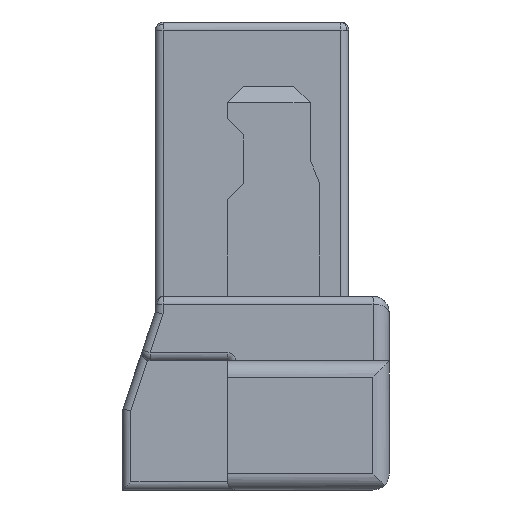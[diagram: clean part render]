
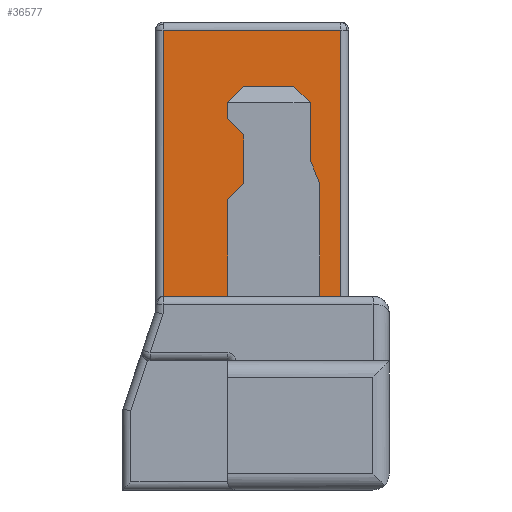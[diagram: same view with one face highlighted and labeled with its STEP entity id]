
A CAD part, left-side view. The second image highlights one B-rep face of the part: STEP entity #36577.
In plain terms, the highlighted planar face has unit normal (-1, 0, 0).
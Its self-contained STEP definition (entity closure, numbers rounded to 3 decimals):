
#9952=DIRECTION('',(0.,-1.,0.));
#9953=VECTOR('',#9952,1.1);
#9954=CARTESIAN_POINT('',(-16.09,1.4,2.85));
#9955=LINE('',#9954,#9953);
#9960=DIRECTION('',(0.,0.,-1.));
#9961=VECTOR('',#9960,0.354);
#9962=CARTESIAN_POINT('',(-16.09,0.49,2.4));
#9963=LINE('',#9962,#9961);
#9964=DIRECTION('',(0.,-0.707,-0.707));
#9965=VECTOR('',#9964,0.141);
#9966=CARTESIAN_POINT('',(-16.09,0.59,2.5));
#9967=LINE('',#9966,#9965);
#9968=DIRECTION('',(0.,-0.707,0.707));
#9969=VECTOR('',#9968,0.141);
#9970=CARTESIAN_POINT('',(-16.09,1.,2.4));
#9971=LINE('',#9970,#9969);
#9972=DIRECTION('',(0.,0.707,0.707));
#9973=VECTOR('',#9972,0.141);
#9974=CARTESIAN_POINT('',(-16.09,0.9,2.2));
#9975=LINE('',#9974,#9973);
#9976=DIRECTION('',(0.,-0.707,0.707));
#9977=VECTOR('',#9976,0.141);
#9978=CARTESIAN_POINT('',(-16.09,1.,1.8));
#9979=LINE('',#9978,#9977);
#9980=DIRECTION('',(0.,-1.,0.));
#9981=VECTOR('',#9980,0.4);
#9982=CARTESIAN_POINT('',(-16.09,1.4,1.2));
#9983=LINE('',#9982,#9981);
#9984=DIRECTION('',(0.,-1.,0.));
#9985=VECTOR('',#9984,0.13);
#9986=CARTESIAN_POINT('',(-16.09,0.43,1.2));
#9987=LINE('',#9986,#9985);
#9988=DIRECTION('',(0.,-0.38,-0.925));
#9989=VECTOR('',#9988,0.158);
#9990=CARTESIAN_POINT('',(-16.09,0.49,2.046));
#9991=LINE('',#9990,#9989);
#10008=DIRECTION('',(0.,0.,1.));
#10009=VECTOR('',#10008,0.7);
#10010=CARTESIAN_POINT('',(-16.09,0.43,1.2));
#10011=LINE('',#10010,#10009);
#10048=DIRECTION('',(0.,0.,-1.));
#10049=VECTOR('',#10048,0.6);
#10050=CARTESIAN_POINT('',(-16.09,1.,1.8));
#10051=LINE('',#10050,#10049);
#10064=DIRECTION('',(0.,0.,-1.));
#10065=VECTOR('',#10064,0.3);
#10066=CARTESIAN_POINT('',(-16.09,0.9,2.2));
#10067=LINE('',#10066,#10065);
#10080=DIRECTION('',(0.,0.,-1.));
#10081=VECTOR('',#10080,0.1);
#10082=CARTESIAN_POINT('',(-16.09,1.,2.4));
#10083=LINE('',#10082,#10081);
#10096=DIRECTION('',(0.,1.,0.));
#10097=VECTOR('',#10096,0.31);
#10098=CARTESIAN_POINT('',(-16.09,0.59,2.5));
#10099=LINE('',#10098,#10097);
#10116=DIRECTION('',(0.,0.,1.));
#10117=VECTOR('',#10116,1.65);
#10118=CARTESIAN_POINT('',(-16.09,1.4,1.2));
#10119=LINE('',#10118,#10117);
#10185=DIRECTION('',(0.,0.,-1.));
#10186=VECTOR('',#10185,1.65);
#10187=CARTESIAN_POINT('',(-16.09,0.3,2.85));
#10188=LINE('',#10187,#10186);
#18924=CARTESIAN_POINT('',(-16.09,1.4,2.85));
#18926=VERTEX_POINT('',#18924);
#18930=CARTESIAN_POINT('',(-16.09,0.3,2.85));
#18931=VERTEX_POINT('',#18930);
#19959=CARTESIAN_POINT('',(-16.09,1.,1.8));
#19961=VERTEX_POINT('',#19959);
#19963=CARTESIAN_POINT('',(-16.09,0.9,1.9));
#19964=VERTEX_POINT('',#19963);
#19967=CARTESIAN_POINT('',(-16.09,1.,1.2));
#19969=VERTEX_POINT('',#19967);
#19981=CARTESIAN_POINT('',(-16.09,0.59,2.5));
#19982=VERTEX_POINT('',#19981);
#19983=CARTESIAN_POINT('',(-16.09,0.49,2.4));
#19984=VERTEX_POINT('',#19983);
#19989=CARTESIAN_POINT('',(-16.09,1.,2.3));
#19990=VERTEX_POINT('',#19989);
#19991=CARTESIAN_POINT('',(-16.09,1.,2.4));
#19992=VERTEX_POINT('',#19991);
#20152=CARTESIAN_POINT('',(-16.09,0.43,1.2));
#20153=CARTESIAN_POINT('',(-16.09,0.43,1.9));
#20154=VERTEX_POINT('',#20152);
#20155=VERTEX_POINT('',#20153);
#20186=CARTESIAN_POINT('',(-16.09,0.49,2.046));
#20187=VERTEX_POINT('',#20186);
#20200=CARTESIAN_POINT('',(-16.09,0.9,2.5));
#20201=VERTEX_POINT('',#20200);
#20208=CARTESIAN_POINT('',(-16.09,0.3,1.2));
#20209=VERTEX_POINT('',#20208);
#20276=CARTESIAN_POINT('',(-16.09,0.9,2.2));
#20277=VERTEX_POINT('',#20276);
#20278=CARTESIAN_POINT('',(-16.09,1.4,1.2));
#20279=VERTEX_POINT('',#20278);
#36541=CARTESIAN_POINT('',(-16.09,0.715,1.8));
#36542=DIRECTION('',(1.,0.,0.));
#36543=DIRECTION('',(0.,1.,0.));
#36544=AXIS2_PLACEMENT_3D('',#36541,#36542,#36543);
#36545=PLANE('',#36544);
#36547=ORIENTED_EDGE('',*,*,#36546,.F.);
#36549=ORIENTED_EDGE('',*,*,#36548,.F.);
#36551=ORIENTED_EDGE('',*,*,#36550,.T.);
#36553=ORIENTED_EDGE('',*,*,#36552,.F.);
#36555=ORIENTED_EDGE('',*,*,#36554,.T.);
#36557=ORIENTED_EDGE('',*,*,#36556,.F.);
#36559=ORIENTED_EDGE('',*,*,#36558,.T.);
#36561=ORIENTED_EDGE('',*,*,#36560,.F.);
#36563=ORIENTED_EDGE('',*,*,#36562,.T.);
#36564=ORIENTED_EDGE('',*,*,#24938,.F.);
#36566=ORIENTED_EDGE('',*,*,#36565,.T.);
#36567=ORIENTED_EDGE('',*,*,#36530,.T.);
#36569=ORIENTED_EDGE('',*,*,#36568,.T.);
#36570=ORIENTED_EDGE('',*,*,#24946,.F.);
#36572=ORIENTED_EDGE('',*,*,#36571,.T.);
#36574=ORIENTED_EDGE('',*,*,#36573,.F.);
#36575=EDGE_LOOP('',(#36547,#36549,#36551,#36553,#36555,#36557,#36559,#36561,
#36563,#36564,#36566,#36567,#36569,#36570,#36572,#36574));
#36576=FACE_OUTER_BOUND('',#36575,.F.);
#36577=ADVANCED_FACE('',(#36576),#36545,.F.);
#24938=EDGE_CURVE('',#20279,#19969,#9983,.T.);
#24946=EDGE_CURVE('',#20154,#20209,#9987,.T.);
#36530=EDGE_CURVE('',#18926,#18931,#9955,.T.);
#36546=EDGE_CURVE('',#19984,#20187,#9963,.T.);
#36548=EDGE_CURVE('',#19982,#19984,#9967,.T.);
#36550=EDGE_CURVE('',#19982,#20201,#10099,.T.);
#36552=EDGE_CURVE('',#19992,#20201,#9971,.T.);
#36554=EDGE_CURVE('',#19992,#19990,#10083,.T.);
#36556=EDGE_CURVE('',#20277,#19990,#9975,.T.);
#36558=EDGE_CURVE('',#20277,#19964,#10067,.T.);
#36560=EDGE_CURVE('',#19961,#19964,#9979,.T.);
#36562=EDGE_CURVE('',#19961,#19969,#10051,.T.);
#36565=EDGE_CURVE('',#20279,#18926,#10119,.T.);
#36568=EDGE_CURVE('',#18931,#20209,#10188,.T.);
#36571=EDGE_CURVE('',#20154,#20155,#10011,.T.);
#36573=EDGE_CURVE('',#20187,#20155,#9991,.T.);
